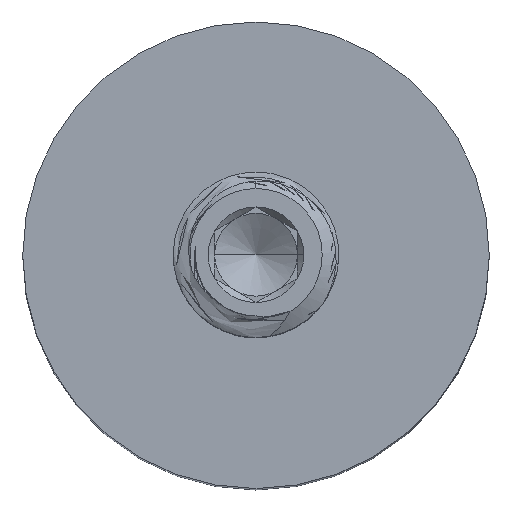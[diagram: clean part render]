
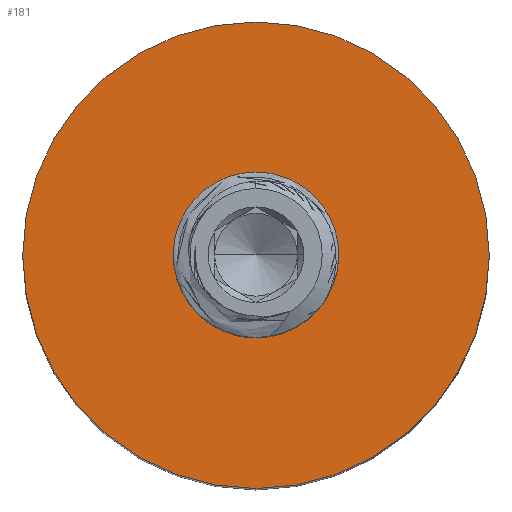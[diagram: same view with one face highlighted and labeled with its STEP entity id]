
A CAD part, top view. The second image highlights one B-rep face of the part: STEP entity #181.
In plain terms, the highlighted planar face has unit normal (0, 0, 1).
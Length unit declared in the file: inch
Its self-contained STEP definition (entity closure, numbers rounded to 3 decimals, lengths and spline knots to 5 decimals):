
#3 = CIRCLE ( 'NONE', #650, 0.3525 ) ;
#83 = AXIS2_PLACEMENT_3D ( 'NONE', #3694, #1078, #4140 ) ;
#181 = ADVANCED_FACE ( 'NONE', ( #1907, #2653 ), #1283, .F. ) ;
#239 = AXIS2_PLACEMENT_3D ( 'NONE', #483, #3528, #918 ) ;
#385 = EDGE_CURVE ( 'NONE', #405, #4557, #1073, .T. ) ;
#405 = VERTEX_POINT ( 'NONE', #3553 ) ;
#483 = CARTESIAN_POINT ( 'NONE',  ( 0., 0., 0. ) ) ;
#650 = AXIS2_PLACEMENT_3D ( 'NONE', #1960, #5011, #2408 ) ;
#651 = ORIENTED_EDGE ( 'NONE', *, *, #3030, .T. ) ;
#918 = DIRECTION ( 'NONE',  ( 1., 0., 0. ) ) ;
#1024 = CIRCLE ( 'NONE', #3247, 0.1005 ) ;
#1073 = CIRCLE ( 'NONE', #239, 0.1005 ) ;
#1078 = DIRECTION ( 'NONE',  ( 0., 0., 1. ) ) ;
#1093 = EDGE_LOOP ( 'NONE', ( #651, #2136 ) ) ;
#1283 = PLANE ( 'NONE',  #5038 ) ;
#1398 = DIRECTION ( 'NONE',  ( 0., 0., 1. ) ) ;
#1724 = DIRECTION ( 'NONE',  ( -1., 0., 0. ) ) ;
#1907 = FACE_BOUND ( 'NONE', #2192, .T. ) ;
#1960 = CARTESIAN_POINT ( 'NONE',  ( 0., 0., 0. ) ) ;
#2136 = ORIENTED_EDGE ( 'NONE', *, *, #3024, .T. ) ;
#2192 = EDGE_LOOP ( 'NONE', ( #2530, #5650 ) ) ;
#2408 = DIRECTION ( 'NONE',  ( 1., 0., 0. ) ) ;
#2530 = ORIENTED_EDGE ( 'NONE', *, *, #385, .F. ) ;
#2653 = FACE_OUTER_BOUND ( 'NONE', #1093, .T. ) ;
#3004 = VERTEX_POINT ( 'NONE', #4559 ) ;
#3024 = EDGE_CURVE ( 'NONE', #3004, #5504, #3338, .T. ) ;
#3030 = EDGE_CURVE ( 'NONE', #5504, #3004, #3, .T. ) ;
#3247 = AXIS2_PLACEMENT_3D ( 'NONE', #4005, #1398, #4446 ) ;
#3338 = CIRCLE ( 'NONE', #83, 0.3525 ) ;
#3528 = DIRECTION ( 'NONE',  ( 0., 0., 1. ) ) ;
#3553 = CARTESIAN_POINT ( 'NONE',  ( 0.1005, 0., 0. ) ) ;
#3600 = CARTESIAN_POINT ( 'NONE',  ( -0.1005, 0., 0. ) ) ;
#3694 = CARTESIAN_POINT ( 'NONE',  ( 0., 0., 0. ) ) ;
#3899 = CARTESIAN_POINT ( 'NONE',  ( 0., 0., 0. ) ) ;
#4005 = CARTESIAN_POINT ( 'NONE',  ( 0., 0., 0. ) ) ;
#4140 = DIRECTION ( 'NONE',  ( 1., 0., 0. ) ) ;
#4338 = DIRECTION ( 'NONE',  ( 0., 0., -1. ) ) ;
#4432 = EDGE_CURVE ( 'NONE', #4557, #405, #1024, .T. ) ;
#4446 = DIRECTION ( 'NONE',  ( 1., 0., 0. ) ) ;
#4557 = VERTEX_POINT ( 'NONE', #3600 ) ;
#4559 = CARTESIAN_POINT ( 'NONE',  ( -0.3525, 0., 0. ) ) ;
#5011 = DIRECTION ( 'NONE',  ( 0., 0., 1. ) ) ;
#5038 = AXIS2_PLACEMENT_3D ( 'NONE', #3899, #4338, #1724 ) ;
#5480 = CARTESIAN_POINT ( 'NONE',  ( 0.3525, 0., 0. ) ) ;
#5504 = VERTEX_POINT ( 'NONE', #5480 ) ;
#5650 = ORIENTED_EDGE ( 'NONE', *, *, #4432, .F. ) ;
